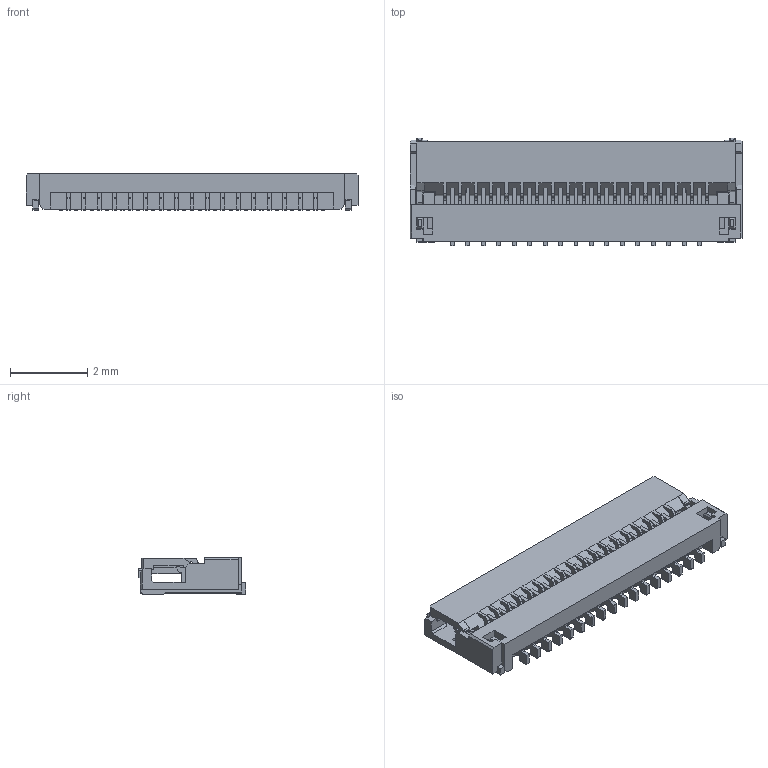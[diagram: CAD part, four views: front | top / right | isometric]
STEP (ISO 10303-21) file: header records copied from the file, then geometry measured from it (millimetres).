
FILE_DESCRIPTION (( 'STEP AP214' ), '1' );
FILE_NAME ('04_6866_735_000_846_+.STEP', '2018-10-31T05:00:23', ( 'Asmin' ), ( '' ), 'SwSTEP 2.0', 'SolidWorks 2014', '' );
FILE_SCHEMA (( 'AUTOMOTIVE_DESIGN' ));
Length unit declared in the file: millimetre
Products named in the file (1): 04_6866_735_000_846_+
Bounding box: 8.6 x 2.79 x 0.95 mm (x, y, z)
Volume: 13.6 mm3; surface area: 119.4 mm2
Topology: 1 solids, 1 shells, 1041 faces, 3310 edges, 2192 vertices
Faces by surface type: plane 805, cylinder 236
Entity records: 36468 total; most frequent: CARTESIAN_POINT 6640, ORIENTED_EDGE 6620, DIRECTION 5838, EDGE_CURVE 3310, LINE 2802, VECTOR 2802, VERTEX_POINT 2192, AXIS2_PLACEMENT_3D 1518
